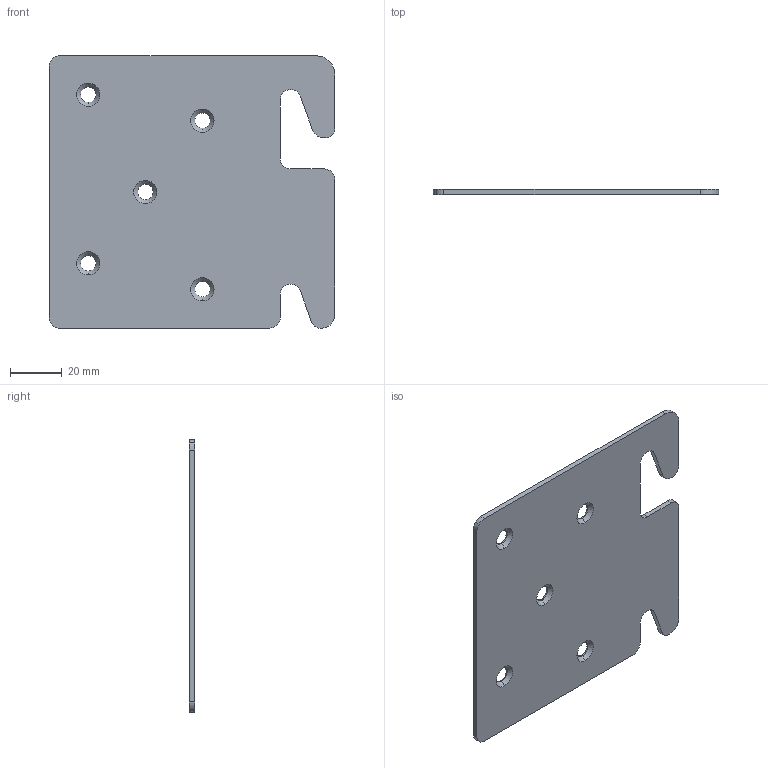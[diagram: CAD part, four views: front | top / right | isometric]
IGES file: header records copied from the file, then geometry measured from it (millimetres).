
Start section: 3D InterOp IGES (v. 2022 1.0.1), Spatial Corp. Copyright (c) 1999-2020.
Global section: file name: E301-A01.igs; native system: Spatial Corp.; preprocessor: 3D InterOp GENERIC/IGES 3.0; author: Noname; organization: Noname; date: 20260518.080641; units: millimetre
Bounding box: 110 x 2 x 105 mm (x, y, z)
Volume: 21429.4 mm3; surface area: 22695.2 mm2
Topology: 1 solids, 1 shells, 49 faces, 131 edges, 84 vertices
Faces by surface type: cylinder 25, extrusion 14, cone 10
